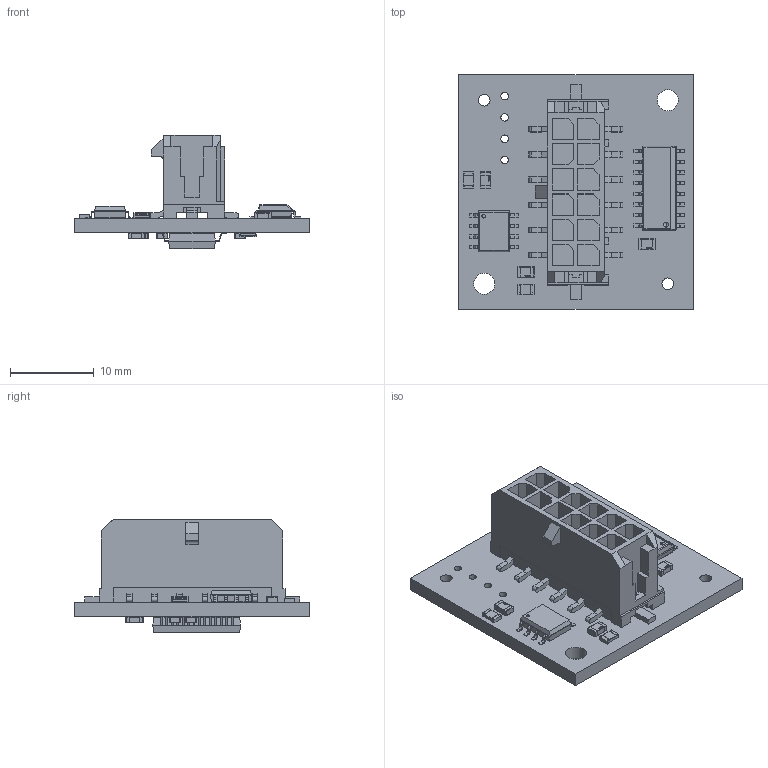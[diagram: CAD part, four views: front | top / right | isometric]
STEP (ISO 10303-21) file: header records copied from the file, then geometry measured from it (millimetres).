
FILE_DESCRIPTION(('Open CASCADE Model'),'2;1');
FILE_NAME('Open CASCADE Shape Model','2021-07-27T14:26:37',('Author'),( 'Open CASCADE'),'Open CASCADE STEP processor 6.8','Open CASCADE 6.8' ,'Unknown');
FILE_SCHEMA(('AUTOMOTIVE_DESIGN { 1 0 10303 214 1 1 1 1 }'));
Length unit declared in the file: millimetre
Products named in the file (27): PCB; Board; C1; C0805; C2; C3; C4; C5; C6; C7; IC2; SW3dPS-SSOP-28; IC3; SW3DPS-SO-8-DEFAULT; L1; SW3dPS-R0805; P1; 430451219; Open CASCADE STEP translator 6.8 1.12.1.1; Open CASCADE STEP translator 6.8 1.12.1.2; R2; R3; C8; R1; C9; IC1; SW3dPS-SOIC127P600X175-16
Assembly tree (37 placements, depth 4):
  PCB
    Board
    C1
      C0805
    C2
      C0805
    C3
      C0805
    C4
      C0805
    C5
      C0805
    C6
      C0805
    C7
      C0805
    IC2
      SW3dPS-SSOP-28
    IC3
      SW3DPS-SO-8-DEFAULT
    L1
      SW3dPS-R0805
    P1
      430451219
        Open CASCADE STEP translator 6.8 1.12.1.1
        Open CASCADE STEP translator 6.8 1.12.1.2
    R2
      SW3dPS-R0805
    R3
      SW3dPS-R0805
    C8
      C0805
    R1
      SW3dPS-R0805
    C9
      C0805
    IC1
      SW3dPS-SOIC127P600X175-16
Bounding box: 28 x 28 x 13.57 mm (x, y, z)
Volume: 2375.3 mm3; surface area: 4367.8 mm2
Topology: 73 solids, 73 shells, 2486 faces, 6512 edges, 4265 vertices
Faces by surface type: plane 1436, bspline 540, cylinder 498, sphere 12
Full cylindrical faces by diameter (mm): 0.9 x4, 1.4 x2, 2.5 x2
Entity records: 53510 total; most frequent: CARTESIAN_POINT 12784, ORIENTED_EDGE 7566, DIRECTION 7164, EDGE_CURVE 3783, LINE 3058, VECTOR 3058, VERTEX_POINT 2479, AXIS2_PLACEMENT_3D 2053
